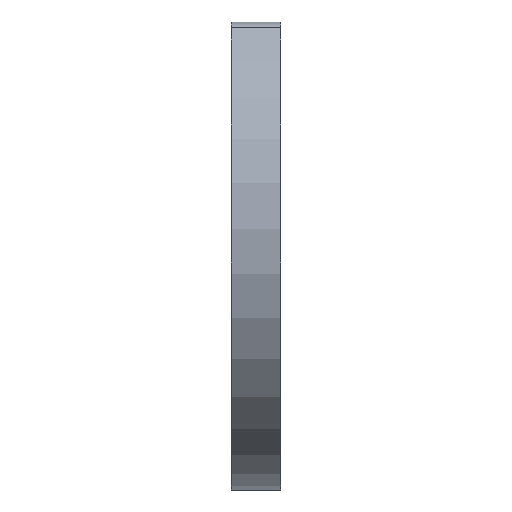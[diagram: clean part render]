
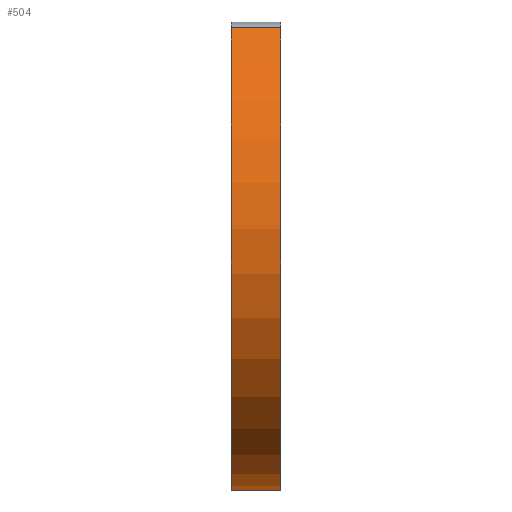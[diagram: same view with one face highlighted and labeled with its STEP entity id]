
A CAD part, left-side view. The second image highlights one B-rep face of the part: STEP entity #504.
In plain terms, the highlighted cylindrical face has radius 2.125 mm (diameter 4.25 mm), a partial arc.
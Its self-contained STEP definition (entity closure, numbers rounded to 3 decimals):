
#41 = CARTESIAN_POINT ( 'NONE',  ( 0., -0.2, 0. ) ) ;
#68 = ORIENTED_EDGE ( 'NONE', *, *, #552, .F. ) ;
#90 = CARTESIAN_POINT ( 'NONE',  ( -1.374, 0.2, 1.621 ) ) ;
#110 = CARTESIAN_POINT ( 'NONE',  ( 0., 0.2, 0. ) ) ;
#112 = VERTEX_POINT ( 'NONE', #828 ) ;
#133 = CARTESIAN_POINT ( 'NONE',  ( -1.374, 0.2, 1.621 ) ) ;
#145 = VECTOR ( 'NONE', #234, 1000. ) ;
#153 = DIRECTION ( 'NONE',  ( 0., 0., -1. ) ) ;
#155 = DIRECTION ( 'NONE',  ( 0., 1., 0. ) ) ;
#230 = ORIENTED_EDGE ( 'NONE', *, *, #868, .T. ) ;
#234 = DIRECTION ( 'NONE',  ( 0., -1., 0. ) ) ;
#244 = DIRECTION ( 'NONE',  ( 0., -1., 0. ) ) ;
#264 = EDGE_LOOP ( 'NONE', ( #68, #387, #230, #361 ) ) ;
#335 = FACE_OUTER_BOUND ( 'NONE', #264, .T. ) ;
#361 = ORIENTED_EDGE ( 'NONE', *, *, #544, .T. ) ;
#387 = ORIENTED_EDGE ( 'NONE', *, *, #434, .T. ) ;
#434 = EDGE_CURVE ( 'NONE', #670, #771, #776, .T. ) ;
#466 = DIRECTION ( 'NONE',  ( 0., 1., 0. ) ) ;
#469 = CARTESIAN_POINT ( 'NONE',  ( 0., -0.2, -2.125 ) ) ;
#504 = ADVANCED_FACE ( 'NONE', ( #335 ), #898, .T. ) ;
#528 = AXIS2_PLACEMENT_3D ( 'NONE', #41, #541, #621 ) ;
#541 = DIRECTION ( 'NONE',  ( 0., 1., 0. ) ) ;
#544 = EDGE_CURVE ( 'NONE', #112, #924, #601, .T. ) ;
#552 = EDGE_CURVE ( 'NONE', #670, #924, #714, .T. ) ;
#591 = CARTESIAN_POINT ( 'NONE',  ( 0., 0.2, 0. ) ) ;
#601 = LINE ( 'NONE', #90, #827 ) ;
#621 = DIRECTION ( 'NONE',  ( 0., 0., 1. ) ) ;
#647 = CARTESIAN_POINT ( 'NONE',  ( 0., 0.2, -2.125 ) ) ;
#670 = VERTEX_POINT ( 'NONE', #647 ) ;
#714 = CIRCLE ( 'NONE', #866, 2.125 ) ;
#771 = VERTEX_POINT ( 'NONE', #469 ) ;
#776 = LINE ( 'NONE', #905, #145 ) ;
#825 = DIRECTION ( 'NONE',  ( 0., 0., 1. ) ) ;
#827 = VECTOR ( 'NONE', #155, 1000. ) ;
#828 = CARTESIAN_POINT ( 'NONE',  ( -1.374, -0.2, 1.621 ) ) ;
#866 = AXIS2_PLACEMENT_3D ( 'NONE', #110, #466, #825 ) ;
#868 = EDGE_CURVE ( 'NONE', #771, #112, #909, .T. ) ;
#875 = AXIS2_PLACEMENT_3D ( 'NONE', #591, #244, #153 ) ;
#898 = CYLINDRICAL_SURFACE ( 'NONE', #875, 2.125 ) ;
#905 = CARTESIAN_POINT ( 'NONE',  ( 0., 0.2, -2.125 ) ) ;
#909 = CIRCLE ( 'NONE', #528, 2.125 ) ;
#924 = VERTEX_POINT ( 'NONE', #133 ) ;
